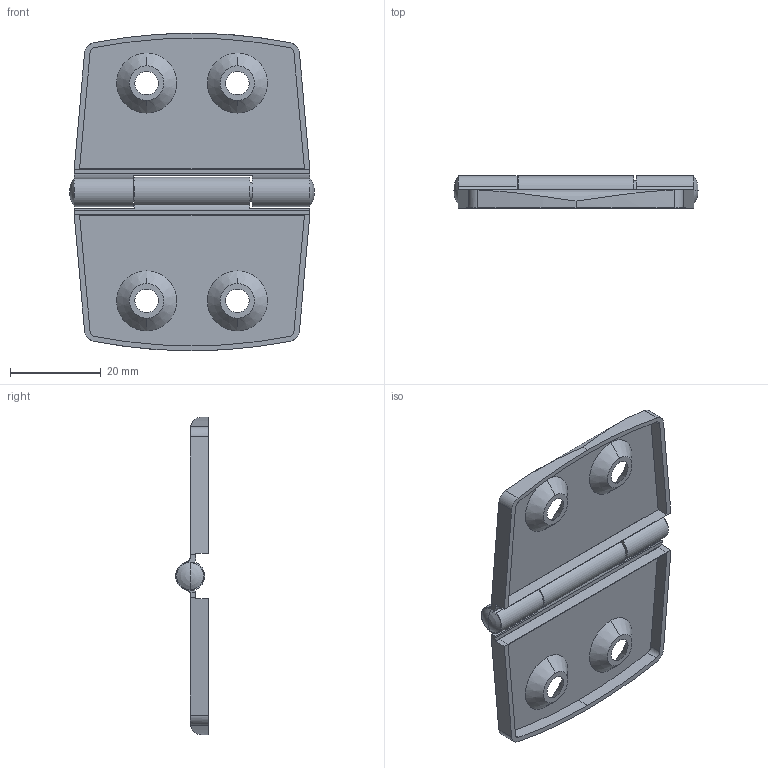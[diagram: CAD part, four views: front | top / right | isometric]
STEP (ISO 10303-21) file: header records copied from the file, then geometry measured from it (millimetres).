
FILE_DESCRIPTION(('STEP AP203'),'1');
FILE_NAME(' ',' ',('TraceParts'),('TraceParts S.A.'),'XStep 1.0',' ',' ');
FILE_SCHEMA(('CONFIG_CONTROL_DESIGN'));
Length unit declared in the file: millimetre
Products named in the file (2): 1; 2
Bounding box: 54 x 7.2 x 70 mm (x, y, z)
Volume: 5753.3 mm3; surface area: 10159.9 mm2
Topology: 2 solids, 2 shells, 94 faces, 254 edges, 168 vertices
Faces by surface type: plane 40, cylinder 34, cone 16, sphere 4
Entity records: 3308 total; most frequent: CARTESIAN_POINT 754, DIRECTION 548, ORIENTED_EDGE 500, EDGE_CURVE 250, AXIS2_PLACEMENT_3D 210, VERTEX_POINT 168, LINE 128, VECTOR 128
